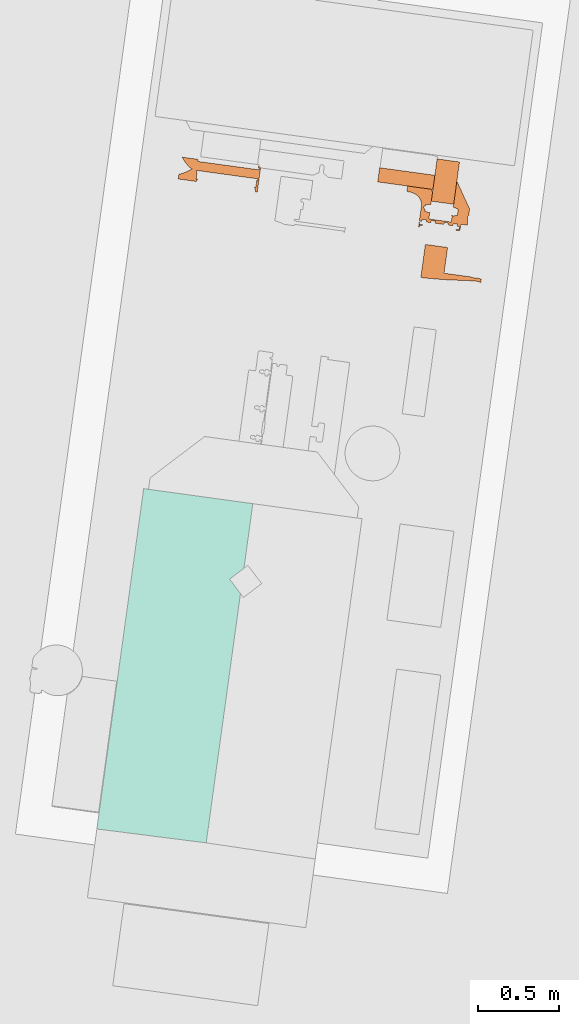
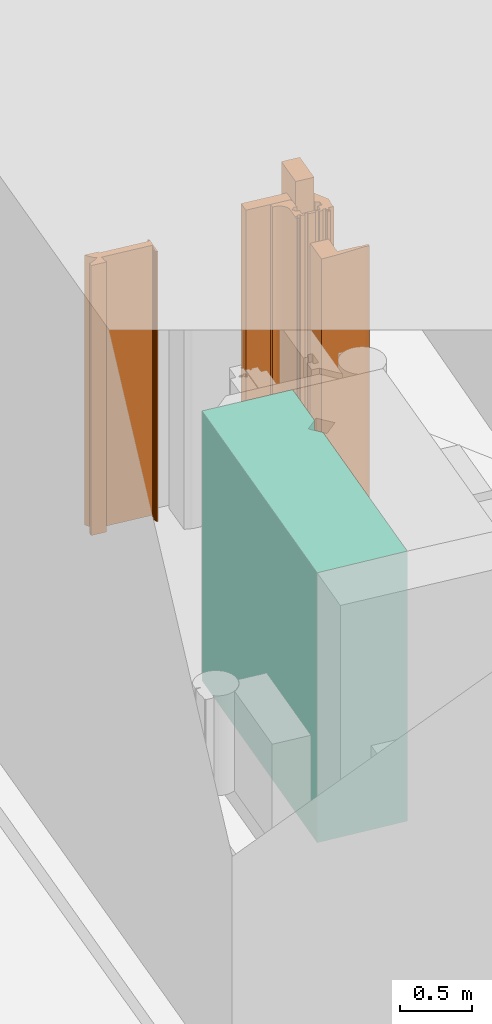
# Not in any storey, part 50 of 75: 5 proxies, plus 1 element that does not belong to this part.
"""IFC4 model written with IfcOpenShell, lengths in metres."""

import ifcopenshell
import ifcopenshell.guid

model = None  # the IFC model being written
_history = None  # IfcOwnerHistory: only IFC2X3 demands one
_inside = {}  # id of a spatial element -> (the spatial element, [elements in it])
_under = {}  # id of a project, library or spatial element -> (it, [spatial elements below it])
_declared = {}  # id of a project -> (the project, [libraries it declares])
_typed = {}  # id of a type object -> (the type object, [elements of that type])
_made_of = {}  # id of a material, layer set ... -> (it, [elements and type objects made of it])


def new_model(schema):
    """Start an empty IFC model of exactly this schema.

    Asked for "IFC4X3", IfcOpenShell would pick the latest addendum, in which some entities
    have other attributes; the version numbers below select the first issue.
    IFC2X3 requires an IfcOwnerHistory on every rooted entity: one is made here for all.
    """
    global model, _history
    if schema == "IFC4X3":
        model = ifcopenshell.file(schema_version=(4, 3, 0, 0))
    else:
        model = ifcopenshell.file(schema=schema)
    _inside.clear()
    _under.clear()
    _declared.clear()
    _typed.clear()
    _made_of.clear()
    _history = None
    if model.schema == "IFC2X3":
        org = make("IfcOrganization", Name="unknown")
        user = make(
            "IfcPersonAndOrganization",
            ThePerson=make("IfcPerson", FamilyName="unknown"),
            TheOrganization=org,
        )
        app = make(
            "IfcApplication",
            ApplicationDeveloper=org,
            Version="unknown",
            ApplicationFullName="unknown",
            ApplicationIdentifier="unknown",
        )
        _history = make(
            "IfcOwnerHistory",
            OwningUser=user,
            OwningApplication=app,
            ChangeAction="ADDED",
            CreationDate=0,
        )
    return model


def make(cls, **values):
    """One entity of the class cls with the attributes given. An attribute that is None is left unset."""
    return model.create_entity(
        cls, **{name: value for name, value in values.items() if value is not None}
    )


def rooted(cls, **values):
    """An entity with a GlobalId (a new one), such as an element, a storey or a relation."""
    return make(cls, GlobalId=ifcopenshell.guid.new(), OwnerHistory=_history, **values)


def si_unit(unit_type, name, prefix=None):
    """IfcSIUnit, for example si_unit("LENGTHUNIT", "METRE", prefix="MILLI")."""
    return make("IfcSIUnit", UnitType=unit_type, Prefix=prefix, Name=name)


def assignment(units):
    """IfcUnitAssignment: the units of a project."""
    return None if units is None else make("IfcUnitAssignment", Units=units)


def point(xyz):
    """IfcCartesianPoint."""
    return None if xyz is None else make("IfcCartesianPoint", Coordinates=xyz)


def direction(xyz):
    """IfcDirection."""
    return None if xyz is None else make("IfcDirection", DirectionRatios=xyz)


def frame(location, z_axis=None, x_axis=None):
    """IfcAxis2Placement3D, a coordinate frame: its origin and axes. An axis left out is left unset."""
    return make(
        "IfcAxis2Placement3D",
        Location=point(location),
        Axis=direction(z_axis),
        RefDirection=direction(x_axis),
    )


def origin_with_axes():
    """The frame at (0, 0, 0) with the z axis (0, 0, 1) and the x axis (1, 0, 0) written out."""
    return frame((0.0, 0.0, 0.0), z_axis=(0.0, 0.0, 1.0), x_axis=(1.0, 0.0, 0.0))


def place(relative_to, where):
    """IfcLocalPlacement: puts the frame where relative to a parent placement (None: the world)."""
    return make(
        "IfcLocalPlacement", PlacementRelTo=relative_to, RelativePlacement=where
    )


def context(
    kind, dimensions, precision=None, world=None, true_north=None, identifier=None
):
    """IfcGeometricRepresentationContext, for example the 3D "Model" context."""
    return make(
        "IfcGeometricRepresentationContext",
        ContextIdentifier=identifier,
        ContextType=kind,
        CoordinateSpaceDimension=dimensions,
        Precision=precision,
        WorldCoordinateSystem=world,
        TrueNorth=true_north,
    )


def subcontext(parent, identifier, kind, view, scale=None):
    """IfcGeometricRepresentationSubContext, for example "Body" below "Model"."""
    return make(
        "IfcGeometricRepresentationSubContext",
        ContextIdentifier=identifier,
        ContextType=kind,
        ParentContext=parent,
        TargetScale=scale,
        TargetView=view,
    )


def project(units=None, contexts=None):
    """IfcProject with its units and contexts."""
    return rooted(
        "IfcProject",
        Name="project",
        RepresentationContexts=contexts,
        UnitsInContext=assignment(units),
    )


def spatial(cls, under=None, at=None, **own):
    """A site, building, storey or space (cls), placed at a placement, below another one or the project."""
    s = rooted(cls, ObjectPlacement=at, **own)
    if under is not None:
        _under.setdefault(under.id(), (under, []))[1].append(s)
    return s


def point_list(points):
    """IfcCartesianPointList2D or 3D."""
    cls = (
        "IfcCartesianPointList2D" if len(points[0]) == 2 else "IfcCartesianPointList3D"
    )
    return make(cls, CoordList=points)


def triangles(points, corners, closed=None, point_numbers=None):
    """IfcTriangulatedFaceSet: each triangle names its three corners, points numbered from 1."""
    return make(
        "IfcTriangulatedFaceSet",
        Coordinates=point_list(points),
        Closed=closed,
        CoordIndex=corners,
        PnIndex=point_numbers,
    )


def shape(context_of_items, identifier, shape_type, items):
    """IfcShapeRepresentation: the items that make up one representation, for example the "Body"."""
    return make(
        "IfcShapeRepresentation",
        ContextOfItems=context_of_items,
        RepresentationIdentifier=identifier,
        RepresentationType=shape_type,
        Items=items,
    )


def made_of(thing, what):
    """Note that an element or type object is made of a material, layer set ...; save() writes the relation."""
    if what is not None:
        _made_of.setdefault(what.id(), (what, []))[1].append(thing)
    return thing


def element(
    cls,
    number,
    at=None,
    inside=None,
    cuts=None,
    type_object=None,
    material=None,
    context=None,
    identifier="Body",
    shape_type=None,
    held_by="IfcProductDefinitionShape",
    body=None,
    shapes=None,
    **own,
):
    """One element of the class cls, such as IfcWall. Its Tag is "e" and its number.

    at: its placement. inside: the storey or other place that contains it. cuts: it is an
    opening in that element (IfcRelVoidsElement). A single representation is given by context,
    identifier, shape_type and body (its items); several are given by shapes. held_by: the class
    of the entity that holds the representations. save() writes the other relations.
    """
    e = rooted(cls, Tag="e%d" % number, ObjectPlacement=at, **own)
    if body is not None:
        shapes = [shape(context, identifier, shape_type, body)]
    if shapes is not None:
        e.Representation = make(held_by, Representations=shapes)
    if inside is not None:
        _inside.setdefault(inside.id(), (inside, []))[1].append(e)
    if cuts is not None:
        rooted(
            "IfcRelVoidsElement", RelatingBuildingElement=cuts, RelatedOpeningElement=e
        )
    if type_object is not None:
        _typed.setdefault(type_object.id(), (type_object, []))[1].append(e)
    return made_of(e, material)


def aggregate(whole, parts):
    """IfcRelAggregates: a whole, such as a stair, and the parts it consists of."""
    return rooted("IfcRelAggregates", RelatingObject=whole, RelatedObjects=parts)


def save(model, path):
    """Write the relations noted so far, then the file.

    IfcRelAggregates (storeys below a building ...), IfcRelContainedInSpatialStructure (elements
    in a storey), IfcRelDefinesByType, IfcRelAssociatesMaterial and IfcRelDeclares: one each for
    every whole, place, type object, material and project.
    """
    for whole, parts in _under.values():
        aggregate(whole, parts)
    for where, things in _inside.values():
        rooted(
            "IfcRelContainedInSpatialStructure",
            RelatedElements=things,
            RelatingStructure=where,
        )
    for kind, things in _typed.values():
        rooted("IfcRelDefinesByType", RelatedObjects=things, RelatingType=kind)
    for what, things in _made_of.values():
        rooted("IfcRelAssociatesMaterial", RelatedObjects=things, RelatingMaterial=what)
    for by, libraries in _declared.values():
        rooted("IfcRelDeclares", RelatingContext=by, RelatedDefinitions=libraries)
    model.write(path)


model = new_model("IFC4")

# Units and contexts
model_context = context("Model", 3, precision=1e-05, world=origin_with_axes(), true_north=direction((0.0, 1.0)))
body_context = subcontext(model_context, "Body", "Model", "MODEL_VIEW")
ifc_project = project(units=[si_unit("AREAUNIT", "SQUARE_METRE"), si_unit("VOLUMEUNIT", "CUBIC_METRE"), si_unit("LENGTHUNIT", "METRE")], contexts=[model_context])

# Site
site_placement = place(None, origin_with_axes())
site = spatial("IfcSite", under=ifc_project, at=site_placement, Name="Parcela industrial Jinhong")

# Compressor, proxies
compressor_placement = place(site_placement, origin_with_axes())
compressor = element("IfcCompressor", 1, at=compressor_placement, inside=site, Name="Compresor de aire AC1001A · Carcasa principal · región CAD 1", ObjectType="Envolvente de equipo", PredefinedType="USERDEFINED", context=body_context, shape_type="Tessellation", body=[
    triangles([(49.52282, 73.229642, 3.95), (48.846977, 73.32256, 3.95), (49.467834, 72.829704, 3.95), (48.846977, 73.32256, 1.65), (49.52282, 73.229642, 1.65), (49.467834, 72.829704, 1.65), (48.557326, 71.215778, 3.95), (49.234108, 71.129696, 3.95), (49.234108, 71.129696, 1.65), (48.557326, 71.215778, 1.65), (49.378698, 72.762115, 3.95), (49.446287, 72.672978, 3.95), (49.446287, 72.672978, 1.65), (49.378698, 72.762115, 1.65)], [[1, 2, 3], [4, 5, 6], [2, 7, 8], [9, 10, 4], [8, 12, 11], [13, 9, 14], [3, 2, 11], [4, 6, 14], [2, 8, 11], [14, 9, 4], [4, 10, 7], [4, 7, 2], [10, 9, 8], [10, 8, 7], [9, 13, 12], [9, 12, 8], [11, 13, 14], [11, 12, 13], [14, 6, 3], [14, 3, 11], [6, 5, 1], [1, 3, 6], [5, 4, 2], [5, 2, 1]], closed=True),
])
proxy_1_placement = place(compressor_placement, origin_with_axes())
proxy_1 = element("IfcBuildingElementProxy", 2, at=proxy_1_placement, Name="Compresor de aire AC1001A · Cuerpo de equipo · región CAD 26", context=body_context, shape_type="Tessellation", body=[
    triangles([(50.663778, 75.364131, 4.2), (50.627793, 75.102393, 4.2), (50.76639, 75.083338, 4.2), (50.663778, 75.364131, 1.65), (50.76639, 75.083338, 1.65), (50.627793, 75.102393, 1.65), (50.802375, 75.345076, 4.2), (50.802375, 75.345076, 1.65)], [[1, 2, 3], [4, 5, 6], [3, 7, 1], [5, 4, 8], [5, 8, 7], [5, 7, 3], [8, 4, 1], [8, 1, 7], [2, 4, 6], [4, 2, 1], [6, 5, 3], [6, 3, 2]], closed=True),
])
proxy_2_placement = place(compressor_placement, origin_with_axes())
proxy_2 = element("IfcBuildingElementProxy", 3, at=proxy_2_placement, Name="Compresor de aire AC1001A · Cuerpo de equipo · región CAD 27", context=body_context, shape_type="Tessellation", body=[
    triangles([(50.878974, 74.632805, 3.85), (50.706794, 74.656477, 3.85), (50.878398, 74.628612, 3.85), (50.706794, 74.656477, 1.65), (50.878974, 74.632805, 1.65), (50.878398, 74.628612, 1.65), (50.728682, 74.815679, 3.85), (50.590977, 74.834612, 3.85), (50.590977, 74.834612, 1.65), (50.728682, 74.815679, 1.65), (50.562753, 74.629318, 3.85), (50.655321, 74.620553, 3.85), (50.655321, 74.620553, 1.65), (50.562753, 74.629318, 1.65), (50.753768, 74.614891, 3.85), (50.723075, 74.615578, 3.85), (50.723075, 74.615578, 1.65), (50.753768, 74.614891, 1.65), (50.86624, 74.609926, 3.85), (50.806859, 74.611933, 3.85), (50.806859, 74.611933, 1.65), (50.86624, 74.609926, 1.65), (50.937208, 74.620256, 3.85), (50.919373, 74.604337, 3.85), (50.934231, 74.598978, 3.85), (50.919373, 74.604337, 1.65), (50.937208, 74.620256, 1.65), (50.934231, 74.598978, 1.65), (50.910635, 74.627213, 3.85), (50.907162, 74.627112, 3.85), (50.907162, 74.627112, 1.65), (50.910635, 74.627213, 1.65), (50.905958, 74.627957, 3.85), (50.905958, 74.627957, 1.65), (50.901353, 74.607622, 3.85), (50.901353, 74.607622, 1.65)], [[1, 2, 3], [4, 5, 6], [2, 7, 8], [9, 10, 4], [8, 11, 12], [13, 14, 9], [16, 15, 12], [17, 13, 18], [20, 19, 15], [21, 18, 22], [23, 24, 25], [26, 27, 28], [23, 29, 30], [31, 32, 27], [30, 33, 3], [6, 34, 31], [12, 2, 8], [4, 13, 9], [15, 19, 12], [18, 13, 22], [24, 23, 35], [36, 27, 26], [30, 3, 23], [27, 6, 31], [3, 2, 12], [13, 4, 6], [23, 19, 35], [36, 22, 27], [23, 3, 12], [13, 6, 27], [19, 23, 12], [22, 13, 27], [4, 10, 7], [4, 7, 2], [10, 9, 8], [10, 8, 7], [9, 14, 11], [9, 11, 8], [14, 13, 12], [14, 12, 11], [16, 13, 17], [16, 12, 13], [15, 17, 18], [15, 16, 17], [20, 18, 21], [20, 15, 18], [19, 21, 22], [19, 20, 21], [35, 22, 36], [35, 19, 22], [36, 26, 24], [36, 24, 35], [25, 26, 28], [26, 25, 24], [28, 27, 23], [23, 25, 28], [29, 27, 32], [29, 23, 27], [32, 31, 30], [32, 30, 29], [33, 31, 34], [33, 30, 31], [34, 6, 3], [34, 3, 33], [6, 5, 1], [1, 3, 6], [5, 4, 2], [5, 2, 1]], closed=True),
])
proxy_3_placement = place(compressor_placement, origin_with_axes())
proxy_3 = element("IfcBuildingElementProxy", 4, at=proxy_3_placement, Name="Compresor de aire AC1001A · Cuerpo de equipo · región CAD 28", context=body_context, shape_type="Tessellation", body=[
    triangles([(50.703618, 74.958625, 4.0), (50.654835, 74.967957, 4.0), (50.654481, 74.965381, 4.0), (50.654835, 74.967957, 1.65), (50.703618, 74.958625, 1.65), (50.654481, 74.965381, 1.65), (50.70887, 74.971126, 4.0), (50.703972, 74.961201, 4.0), (50.70744, 74.960724, 4.0), (50.70887, 74.971126, 1.65), (50.70744, 74.960724, 1.65), (50.703972, 74.961201, 1.65), (50.732943, 74.967817, 4.0), (50.731513, 74.957415, 4.0), (50.734089, 74.95706, 4.0), (50.732943, 74.967817, 1.65), (50.734089, 74.95706, 1.65), (50.731513, 74.957415, 1.65), (50.760384, 74.950821, 4.0), (50.733735, 74.954485, 4.0), (50.733735, 74.954485, 1.65), (50.760384, 74.950821, 1.65), (50.763536, 74.95392, 4.0), (50.760738, 74.953397, 4.0), (50.763413, 74.953029, 4.0), (50.760738, 74.953397, 1.65), (50.763536, 74.95392, 1.65), (50.763413, 74.953029, 1.65), (50.789294, 74.950379, 4.0), (50.787609, 74.950611, 4.0), (50.787487, 74.949719, 4.0), (50.787609, 74.950611, 1.65), (50.789294, 74.950379, 1.65), (50.787487, 74.949719, 1.65), (50.802587, 74.945019, 4.0), (50.790063, 74.949365, 4.0), (50.789708, 74.946789, 4.0), (50.790063, 74.949365, 1.65), (50.802587, 74.945019, 1.65), (50.789708, 74.946789, 1.65), (50.799986, 74.926097, 4.0), (50.780172, 74.928821, 4.0), (50.779341, 74.922777, 4.0), (50.780172, 74.928821, 1.65), (50.799986, 74.926097, 1.65), (50.779341, 74.922777, 1.65), (50.852463, 75.007508, 4.0), (50.810769, 74.959741, 4.0), (50.850396, 74.954293, 4.0), (50.852463, 75.007508, 1.65), (50.850396, 74.954293, 1.65), (50.810769, 74.959741, 1.65), (50.865017, 75.054031, 4.0), (50.854624, 75.010743, 4.0), (50.859337, 75.01272, 4.0), (50.865017, 75.054031, 1.65), (50.859337, 75.01272, 1.65), (50.854624, 75.010743, 1.65), (50.786044, 75.226293, 4.0), (50.763666, 75.063524, 4.0), (50.763666, 75.063524, 1.65), (50.786044, 75.226293, 1.65), (50.76109, 75.063878, 4.0), (50.760981, 75.063086, 4.0), (50.760981, 75.063086, 1.65), (50.76109, 75.063878, 1.65), (50.79168, 75.031611, 4.0), (50.793734, 75.052425, 4.0), (50.791841, 75.038655, 4.0), (50.793734, 75.052425, 1.65), (50.79168, 75.031611, 1.65), (50.791841, 75.038655, 1.65), (50.788517, 75.014482, 4.0), (50.790424, 75.028352, 4.0), (50.790424, 75.028352, 1.65), (50.788517, 75.014482, 1.65), (50.766995, 75.011385, 4.0), (50.754116, 75.013155, 4.0), (50.753639, 75.009688, 4.0), (50.754116, 75.013155, 1.65), (50.766995, 75.011385, 1.65), (50.753639, 75.009688, 1.65), (50.752905, 74.98526, 4.0), (50.751122, 74.985506, 4.0), (50.75266, 74.983477, 4.0), (50.751122, 74.985506, 1.65), (50.752905, 74.98526, 1.65), (50.75266, 74.983477, 1.65), (50.615993, 75.004084, 4.0), (50.614309, 75.004315, 4.0), (50.614064, 75.002532, 4.0), (50.614309, 75.004315, 1.65), (50.615993, 75.004084, 1.65), (50.614064, 75.002532, 1.65), (50.620671, 75.031502, 4.0), (50.617619, 75.028389, 4.0), (50.620195, 75.028035, 4.0), (50.620671, 75.031502, 1.65), (50.620195, 75.028035, 1.65), (50.617619, 75.028389, 1.65), (50.588443, 75.052588, 4.0), (50.587551, 75.052711, 4.0), (50.587013, 75.042186, 4.0), (50.587551, 75.052711, 1.65), (50.588443, 75.052588, 1.65), (50.587013, 75.042186, 1.65), (50.58533, 75.055641, 4.0), (50.583646, 75.055872, 4.0), (50.583646, 75.055872, 1.65), (50.58533, 75.055641, 1.65), (50.582217, 75.058693, 4.0), (50.579763, 75.059939, 4.0), (50.579763, 75.059939, 1.65), (50.582217, 75.058693, 1.65), (50.585893, 75.072219, 4.0), (50.580156, 75.068667, 4.0), (50.582841, 75.069105, 4.0), (50.580156, 75.068667, 1.65), (50.585893, 75.072219, 1.65), (50.582841, 75.069105, 1.65), (50.59223, 75.080129, 4.0), (50.591045, 75.07151, 4.0), (50.591045, 75.07151, 1.65), (50.59223, 75.080129, 1.65), (50.626753, 75.082348, 4.0), (50.613766, 75.083326, 4.0), (50.626644, 75.081555, 4.0), (50.613766, 75.083326, 1.65), (50.626753, 75.082348, 1.65), (50.626644, 75.081555, 1.65), (50.62565, 75.176374, 4.0), (50.625069, 75.082579, 4.0), (50.635734, 75.160149, 4.0), (50.62565, 75.176374, 1.65), (50.635734, 75.160149, 1.65), (50.625069, 75.082579, 1.65), (50.481011, 75.19626, 4.0), (50.476284, 75.161883, 4.0), (50.476284, 75.161883, 1.65), (50.481011, 75.19626, 1.65), (50.555547, 74.953546, 4.0), (50.548856, 74.943059, 4.0), (50.554007, 74.942351, 4.0), (50.555547, 74.953546, 1.65), (50.554007, 74.942351, 1.65), (50.548856, 74.943059, 1.65), (50.572724, 74.957342, 4.0), (50.571893, 74.951299, 4.0), (50.571893, 74.951299, 1.65), (50.572724, 74.957342, 1.65), (50.568744, 74.979793, 4.0), (50.555512, 74.978988, 4.0), (50.56839, 74.977217, 4.0), (50.555512, 74.978988, 1.65), (50.568744, 74.979793, 1.65), (50.56839, 74.977217, 1.65), (50.571443, 74.98033, 4.0), (50.57132, 74.979439, 4.0), (50.57132, 74.979439, 1.65), (50.571443, 74.98033, 1.65), (50.5973, 74.976775, 4.0), (50.595615, 74.977007, 4.0), (50.595493, 74.976115, 4.0), (50.595615, 74.977007, 1.65), (50.5973, 74.976775, 1.65), (50.595493, 74.976115, 1.65), (50.624364, 74.969522, 4.0), (50.598069, 74.975761, 4.0), (50.597715, 74.973185, 4.0), (50.598069, 74.975761, 1.65), (50.624364, 74.969522, 1.65), (50.597715, 74.973185, 1.65), (50.627416, 74.972635, 4.0), (50.624718, 74.972097, 4.0), (50.627294, 74.971743, 4.0), (50.624718, 74.972097, 1.65), (50.627416, 74.972635, 1.65), (50.627294, 74.971743, 1.65), (50.652896, 74.978822, 4.0), (50.652774, 74.97793, 4.0), (50.654335, 74.976807, 4.0), (50.652896, 74.978822, 1.65), (50.654335, 74.976807, 1.65), (50.652774, 74.97793, 1.65), (50.653273, 74.96908, 4.0), (50.651589, 74.969311, 4.0), (50.651466, 74.96842, 4.0), (50.651589, 74.969311, 1.65), (50.653273, 74.96908, 1.65), (50.651466, 74.96842, 1.65), (50.762644, 74.954043, 4.0), (50.762644, 74.954043, 1.65), (50.805198, 74.919223, 4.0), (50.805198, 74.919223, 1.65), (50.756215, 75.009334, 4.0), (50.756215, 75.009334, 1.65), (50.606901, 75.033395, 4.0), (50.606901, 75.033395, 1.65), (50.50717, 75.156728, 4.0), (50.50717, 75.156728, 1.65), (50.55291, 74.960066, 4.0), (50.55291, 74.960066, 1.65), (50.626624, 74.972744, 4.0), (50.626624, 74.972744, 1.65), (50.763707, 74.96177, 4.0), (50.763707, 74.96177, 1.65), (50.790356, 74.958106, 4.0), (50.790356, 74.958106, 1.65), (50.77386, 75.061315, 4.0), (50.77386, 75.061315, 1.65), (50.5237, 75.149207, 4.0), (50.5237, 75.149207, 1.65), (50.569759, 74.980562, 4.0), (50.569759, 74.980562, 1.65), (50.598362, 74.984503, 4.0), (50.598362, 74.984503, 1.65), (50.578433, 75.062746, 4.0), (50.578433, 75.062746, 1.65), (50.538092, 75.139355, 4.0), (50.538092, 75.139355, 1.65), (50.566739, 75.073136, 4.0), (50.566739, 75.073136, 1.65), (50.570821, 74.988289, 4.0), (50.570821, 74.988289, 1.65), (50.764843, 74.963431, 4.0), (50.764843, 74.963431, 1.65), (50.612647, 74.992229, 4.0), (50.612647, 74.992229, 1.65), (50.549663, 75.128074, 4.0), (50.549663, 75.128074, 1.65), (50.57275, 74.989841, 4.0), (50.57275, 74.989841, 1.65), (50.596923, 74.986518, 4.0), (50.596923, 74.986518, 1.65), (50.788025, 74.960244, 4.0), (50.788025, 74.960244, 1.65), (50.751244, 74.973174, 4.0), (50.751244, 74.973174, 1.65), (50.559196, 75.114448, 4.0), (50.559196, 75.114448, 1.65), (50.627686, 74.980471, 4.0), (50.627686, 74.980471, 1.65), (50.567741, 75.087029, 4.0), (50.567741, 75.087029, 1.65), (50.629615, 74.982023, 4.0), (50.629615, 74.982023, 1.65), (50.564483, 75.101508, 4.0), (50.564483, 75.101508, 1.65)], [[1, 2, 3], [4, 5, 6], [7, 8, 9], [10, 11, 12], [13, 14, 15], [16, 17, 18], [20, 19, 15], [21, 17, 22], [23, 24, 25], [26, 27, 28], [29, 30, 31], [32, 33, 34], [35, 36, 37], [38, 39, 40], [41, 42, 43], [44, 45, 46], [47, 48, 49], [50, 51, 52], [53, 54, 55], [56, 57, 58], [60, 53, 59], [62, 56, 61], [60, 63, 64], [65, 66, 61], [67, 68, 69], [70, 71, 72], [74, 73, 67], [75, 71, 76], [77, 78, 79], [80, 81, 82], [83, 84, 85], [86, 87, 88], [89, 90, 91], [92, 93, 94], [95, 96, 97], [98, 99, 100], [101, 102, 103], [104, 105, 106], [102, 107, 108], [109, 110, 104], [108, 111, 112], [113, 114, 109], [115, 116, 117], [118, 119, 120], [115, 122, 121], [123, 119, 124], [125, 126, 127], [128, 129, 130], [131, 132, 133], [134, 135, 136], [131, 137, 138], [139, 140, 134], [141, 142, 143], [144, 145, 146], [148, 147, 141], [149, 144, 150], [151, 152, 153], [154, 155, 156], [158, 157, 151], [159, 155, 160], [161, 162, 163], [164, 165, 166], [167, 168, 169], [170, 171, 172], [173, 174, 175], [176, 177, 178], [179, 180, 181], [182, 183, 184], [185, 186, 187], [188, 189, 190], [8, 2, 1], [5, 4, 12], [15, 19, 13], [17, 16, 22], [23, 191, 24], [26, 192, 27], [29, 31, 36], [34, 33, 38], [41, 43, 193], [46, 45, 194], [54, 48, 47], [52, 58, 50], [53, 60, 64], [65, 61, 56], [77, 79, 195], [82, 81, 196], [96, 95, 197], [100, 198, 98], [103, 102, 108], [106, 109, 104], [121, 116, 115], [119, 118, 124], [132, 126, 125], [129, 128, 136], [131, 138, 199], [200, 139, 134], [141, 147, 201], [202, 150, 144], [157, 152, 151], [155, 154, 160], [161, 163, 168], [166, 165, 170], [174, 168, 167], [171, 170, 176], [173, 203, 174], [176, 204, 177], [2, 185, 187], [190, 189, 4], [8, 7, 2], [12, 4, 10], [19, 24, 13], [22, 16, 26], [24, 191, 205], [206, 192, 26], [207, 29, 36], [38, 33, 208], [35, 41, 193], [194, 45, 39], [48, 54, 53], [58, 52, 56], [53, 64, 209], [210, 65, 56], [77, 195, 73], [81, 76, 196], [90, 96, 197], [198, 100, 92], [108, 112, 103], [109, 106, 113], [126, 132, 131], [136, 128, 134], [131, 199, 211], [212, 200, 134], [201, 142, 141], [202, 144, 146], [157, 213, 152], [154, 214, 160], [215, 161, 168], [170, 165, 216], [174, 203, 168], [176, 170, 204], [185, 2, 181], [4, 189, 183], [24, 205, 13], [26, 16, 206], [36, 35, 207], [208, 39, 38], [35, 193, 48], [52, 194, 39], [68, 53, 209], [70, 210, 56], [83, 73, 195], [87, 196, 76], [197, 91, 90], [94, 198, 92], [112, 217, 103], [113, 106, 218], [121, 126, 131], [134, 128, 124], [131, 211, 219], [220, 212, 134], [201, 221, 142], [202, 146, 222], [213, 223, 152], [214, 154, 224], [203, 215, 168], [170, 216, 204], [7, 181, 2], [4, 183, 10], [205, 225, 13], [206, 16, 226], [48, 207, 35], [39, 208, 52], [48, 53, 68], [70, 56, 52], [73, 83, 85], [87, 76, 88], [197, 227, 91], [94, 228, 198], [116, 121, 131], [134, 124, 118], [131, 219, 229], [230, 220, 134], [221, 201, 152], [154, 202, 222], [223, 231, 152], [224, 154, 232], [215, 203, 233], [216, 234, 204], [181, 7, 179], [183, 182, 10], [207, 48, 235], [208, 236, 52], [67, 48, 68], [70, 52, 71], [73, 85, 237], [238, 88, 76], [227, 197, 103], [106, 198, 228], [131, 229, 239], [240, 230, 134], [152, 231, 221], [232, 154, 222], [203, 241, 233], [234, 242, 204], [235, 48, 225], [226, 52, 236], [73, 48, 67], [52, 76, 71], [116, 131, 239], [240, 134, 118], [231, 243, 221], [222, 244, 232], [241, 245, 233], [242, 234, 246], [48, 13, 225], [226, 16, 52], [237, 48, 73], [52, 238, 76], [116, 239, 247], [248, 240, 118], [243, 231, 233], [234, 232, 244], [13, 48, 7], [16, 10, 52], [227, 48, 237], [238, 52, 228], [217, 116, 247], [248, 118, 218], [243, 233, 247], [244, 248, 234], [48, 179, 7], [10, 182, 52], [217, 247, 233], [234, 248, 218], [179, 48, 245], [182, 246, 52], [103, 217, 233], [234, 218, 106], [245, 48, 233], [234, 52, 246], [103, 233, 227], [228, 234, 106], [48, 227, 233], [234, 228, 52], [6, 5, 1], [1, 3, 6], [5, 12, 8], [5, 8, 1], [12, 11, 9], [12, 9, 8], [11, 10, 7], [7, 9, 11], [13, 10, 16], [13, 7, 10], [14, 16, 18], [16, 14, 13], [18, 17, 15], [18, 15, 14], [17, 21, 20], [17, 20, 15], [19, 21, 22], [19, 20, 21], [22, 26, 24], [22, 24, 19], [25, 26, 28], [26, 25, 24], [28, 27, 23], [23, 25, 28], [191, 27, 192], [191, 23, 27], [192, 206, 205], [192, 205, 191], [206, 226, 225], [206, 225, 205], [235, 226, 236], [235, 225, 226], [236, 208, 207], [236, 207, 235], [208, 33, 29], [208, 29, 207], [33, 32, 30], [33, 30, 29], [31, 32, 34], [32, 31, 30], [36, 34, 38], [36, 31, 34], [37, 38, 40], [38, 37, 36], [40, 39, 35], [35, 37, 40], [39, 45, 41], [39, 41, 35], [45, 44, 42], [45, 42, 41], [43, 44, 46], [44, 43, 42], [193, 46, 194], [193, 43, 46], [194, 52, 48], [194, 48, 193], [52, 51, 49], [52, 49, 48], [51, 50, 47], [47, 49, 51], [50, 58, 54], [50, 54, 47], [58, 57, 55], [58, 55, 54], [57, 56, 53], [53, 55, 57], [56, 62, 59], [56, 59, 53], [62, 61, 60], [62, 60, 59], [63, 61, 66], [63, 60, 61], [66, 65, 64], [66, 64, 63], [209, 65, 210], [209, 64, 65], [210, 70, 68], [210, 68, 209], [69, 70, 72], [70, 69, 68], [72, 71, 67], [67, 69, 72], [71, 75, 74], [71, 74, 67], [73, 75, 76], [73, 74, 75], [77, 76, 81], [77, 73, 76], [81, 80, 78], [81, 78, 77], [79, 80, 82], [80, 79, 78], [195, 82, 196], [195, 79, 82], [196, 87, 83], [196, 83, 195], [87, 86, 84], [87, 84, 83], [85, 86, 88], [86, 85, 84], [88, 238, 237], [88, 237, 85], [238, 228, 227], [238, 227, 237], [228, 94, 91], [228, 91, 227], [94, 93, 89], [89, 91, 94], [93, 92, 90], [93, 90, 89], [92, 100, 96], [92, 96, 90], [100, 99, 97], [100, 97, 96], [99, 98, 95], [95, 97, 99], [197, 98, 198], [197, 95, 98], [198, 106, 103], [198, 103, 197], [106, 105, 101], [101, 103, 106], [105, 104, 102], [105, 102, 101], [104, 110, 107], [104, 107, 102], [110, 109, 108], [110, 108, 107], [109, 114, 111], [109, 111, 108], [114, 113, 112], [114, 112, 111], [113, 218, 217], [113, 217, 112], [218, 118, 116], [218, 116, 217], [117, 118, 120], [118, 117, 116], [120, 119, 115], [115, 117, 120], [122, 119, 123], [122, 115, 119], [121, 123, 124], [121, 122, 123], [126, 124, 128], [126, 121, 124], [127, 128, 130], [128, 127, 126], [130, 129, 125], [125, 127, 130], [132, 129, 136], [132, 125, 129], [136, 135, 133], [136, 133, 132], [135, 134, 131], [131, 133, 135], [137, 134, 140], [137, 131, 134], [140, 139, 138], [140, 138, 137], [199, 139, 200], [199, 138, 139], [211, 200, 212], [211, 199, 200], [219, 212, 220], [219, 211, 212], [229, 220, 230], [229, 219, 220], [230, 240, 239], [230, 239, 229], [240, 248, 247], [240, 247, 239], [248, 244, 243], [248, 243, 247], [244, 222, 221], [244, 221, 243], [222, 146, 142], [222, 142, 221], [146, 145, 143], [146, 143, 142], [145, 144, 141], [141, 143, 145], [148, 144, 149], [148, 141, 144], [147, 149, 150], [147, 148, 149], [201, 150, 202], [201, 147, 150], [202, 154, 152], [202, 152, 201], [153, 154, 156], [154, 153, 152], [156, 155, 151], [151, 153, 156], [158, 155, 159], [158, 151, 155], [157, 159, 160], [157, 158, 159], [213, 160, 214], [213, 157, 160], [214, 224, 223], [214, 223, 213], [231, 224, 232], [231, 223, 224], [233, 232, 234], [233, 231, 232], [234, 216, 215], [234, 215, 233], [216, 165, 161], [216, 161, 215], [165, 164, 162], [165, 162, 161], [163, 164, 166], [164, 163, 162], [168, 166, 170], [168, 163, 166], [169, 170, 172], [170, 169, 168], [172, 171, 167], [167, 169, 172], [171, 176, 174], [171, 174, 167], [175, 176, 178], [176, 175, 174], [178, 177, 173], [173, 175, 178], [203, 177, 204], [203, 173, 177], [204, 242, 241], [204, 241, 203], [245, 242, 246], [245, 241, 242], [246, 182, 179], [246, 179, 245], [180, 182, 184], [182, 180, 179], [184, 183, 181], [184, 181, 180], [183, 189, 185], [183, 185, 181], [189, 188, 186], [189, 186, 185], [187, 188, 190], [188, 187, 186], [190, 4, 2], [190, 2, 187], [3, 4, 6], [4, 3, 2]], closed=True),
])
proxy_4_placement = place(compressor_placement, origin_with_axes())
proxy_4 = element("IfcBuildingElementProxy", 5, at=proxy_4_placement, Name="Compresor de aire AC1001A · Cuerpo de equipo · región CAD 29", context=body_context, shape_type="Tessellation", body=[
    triangles([(49.550168, 75.157584, 3.95), (49.539144, 75.166973, 3.95), (49.540093, 75.158969, 3.95), (49.539144, 75.166973, 1.65), (49.550168, 75.157584, 1.65), (49.540093, 75.158969, 1.65), (49.570885, 75.308266, 3.95), (49.559313, 75.319548, 3.95), (49.557774, 75.308353, 3.95), (49.559313, 75.319548, 1.65), (49.570885, 75.308266, 1.65), (49.557774, 75.308353, 1.65), (49.188581, 75.360828, 3.95), (49.184089, 75.359729, 3.95), (49.188349, 75.359143, 3.95), (49.184089, 75.359729, 1.65), (49.188581, 75.360828, 1.65), (49.188349, 75.359143, 1.65), (49.085253, 75.375034, 3.95), (49.100842, 75.347453, 3.95), (49.100842, 75.347453, 1.65), (49.085253, 75.375034, 1.65), (49.13496, 75.308544, 3.95), (49.120945, 75.321877, 3.95), (49.120945, 75.321877, 1.65), (49.13496, 75.308544, 1.65), (49.148376, 75.304075, 3.95), (49.143102, 75.303891, 3.95), (49.143102, 75.303891, 1.65), (49.148376, 75.304075, 1.65), (49.097429, 75.278576, 3.95), (49.079227, 75.273205, 3.95), (49.078751, 75.269738, 3.95), (49.079227, 75.273205, 1.65), (49.097429, 75.278576, 1.65), (49.078751, 75.269738, 1.65), (49.071816, 75.270691, 3.95), (49.064749, 75.269947, 3.95), (49.064749, 75.269947, 1.65), (49.071816, 75.270691, 1.65), (49.174239, 75.224208, 3.95), (49.060608, 75.23983, 3.95), (49.060608, 75.23983, 1.65), (49.174239, 75.224208, 1.65), (49.180624, 75.239077, 3.95), (49.175656, 75.234511, 3.95), (49.179916, 75.233925, 3.95), (49.175656, 75.234511, 1.65), (49.180624, 75.239077, 1.65), (49.179916, 75.233925, 1.65), (49.177453, 75.279889, 3.95), (49.173193, 75.280475, 3.95), (49.172005, 75.240262, 3.95), (49.173193, 75.280475, 1.65), (49.177453, 75.279889, 1.65), (49.172005, 75.240262, 1.65), (49.552029, 75.22839, 3.95), (49.546878, 75.229098, 3.95), (49.54143, 75.189471, 3.95), (49.546878, 75.229098, 1.65), (49.552029, 75.22839, 1.65), (49.54143, 75.189471, 1.65), (49.532811, 75.190656, 3.95), (49.532103, 75.185505, 3.95), (49.532103, 75.185505, 1.65), (49.532811, 75.190656, 1.65), (49.535042, 75.171539, 3.95), (49.536363, 75.184919, 3.95), (49.536363, 75.184919, 1.65), (49.535042, 75.171539, 1.65), (49.562926, 75.307645, 3.95), (49.562926, 75.307645, 1.65), (49.115181, 75.285826, 3.95), (49.115181, 75.285826, 1.65), (49.561387, 75.29645, 3.95), (49.561387, 75.29645, 1.65), (49.18255, 75.348534, 3.95), (49.18255, 75.348534, 1.65), (49.132053, 75.294004, 3.95), (49.132053, 75.294004, 1.65), (49.553691, 75.240476, 3.95), (49.553691, 75.240476, 1.65), (49.174855, 75.292561, 3.95), (49.174855, 75.292561, 1.65)], [[1, 2, 3], [4, 5, 6], [7, 8, 9], [10, 11, 12], [13, 14, 15], [16, 17, 18], [13, 19, 20], [21, 22, 17], [24, 23, 20], [25, 21, 26], [28, 27, 23], [29, 26, 30], [31, 32, 33], [34, 35, 36], [33, 37, 38], [39, 40, 36], [42, 41, 38], [43, 39, 44], [45, 46, 47], [48, 49, 50], [51, 52, 53], [54, 55, 56], [57, 58, 59], [60, 61, 62], [59, 63, 64], [65, 66, 62], [67, 2, 68], [4, 70, 69], [7, 2, 1], [5, 4, 11], [7, 9, 71], [12, 11, 72], [14, 13, 20], [16, 21, 17], [23, 27, 20], [26, 21, 30], [33, 73, 31], [74, 36, 35], [41, 33, 38], [39, 36, 44], [46, 45, 53], [48, 56, 49], [59, 64, 68], [69, 65, 62], [7, 71, 75], [76, 72, 11], [77, 14, 20], [21, 16, 78], [41, 73, 33], [44, 36, 74], [41, 46, 53], [56, 48, 44], [59, 68, 2], [4, 69, 62], [75, 77, 20], [21, 78, 76], [79, 73, 41], [44, 74, 80], [59, 2, 57], [62, 61, 4], [27, 75, 20], [30, 21, 76], [41, 27, 79], [44, 80, 30], [57, 2, 7], [11, 4, 61], [27, 41, 53], [56, 44, 30], [81, 57, 7], [11, 61, 82], [53, 52, 27], [56, 30, 54], [75, 81, 7], [76, 11, 82], [52, 83, 27], [54, 30, 84], [81, 75, 83], [82, 84, 76], [75, 27, 83], [84, 30, 76], [5, 11, 7], [5, 7, 1], [11, 10, 8], [11, 8, 7], [9, 10, 12], [10, 9, 8], [71, 12, 72], [71, 9, 12], [72, 76, 75], [72, 75, 71], [77, 76, 78], [77, 75, 76], [78, 16, 14], [78, 14, 77], [15, 16, 18], [16, 15, 14], [18, 17, 13], [13, 15, 18], [19, 17, 22], [19, 13, 17], [22, 21, 20], [22, 20, 19], [21, 25, 24], [21, 24, 20], [23, 25, 26], [23, 24, 25], [28, 26, 29], [28, 23, 26], [27, 29, 30], [27, 28, 29], [79, 30, 80], [79, 27, 30], [80, 74, 73], [80, 73, 79], [74, 35, 31], [74, 31, 73], [35, 34, 32], [35, 32, 31], [33, 34, 36], [34, 33, 32], [37, 36, 40], [37, 33, 36], [40, 39, 38], [40, 38, 37], [39, 43, 42], [39, 42, 38], [41, 43, 44], [41, 42, 43], [44, 48, 46], [44, 46, 41], [47, 48, 50], [48, 47, 46], [50, 49, 45], [45, 47, 50], [53, 49, 56], [53, 45, 49], [56, 55, 51], [51, 53, 56], [55, 54, 52], [55, 52, 51], [54, 84, 83], [54, 83, 52], [84, 82, 81], [84, 81, 83], [82, 61, 57], [82, 57, 81], [61, 60, 58], [61, 58, 57], [59, 60, 62], [60, 59, 58], [63, 62, 66], [63, 59, 62], [66, 65, 64], [66, 64, 63], [68, 65, 69], [68, 64, 65], [67, 69, 70], [67, 68, 69], [70, 4, 2], [70, 2, 67], [3, 4, 6], [4, 3, 2], [6, 5, 1], [1, 3, 6]], closed=True),
])
proxy_5_placement = place(compressor_placement, origin_with_axes())
proxy_5 = element("IfcBuildingElementProxy", 6, at=proxy_5_placement, Name="Compresor de aire AC1001A · Cuerpo de equipo · región CAD 35", context=body_context, shape_type="Tessellation", body=[
    triangles([(50.649818, 75.262586, 4.0), (50.307934, 75.30959, 4.0), (50.637736, 75.174712, 4.0), (50.307934, 75.30959, 1.65), (50.649818, 75.262586, 1.65), (50.637736, 75.174712, 1.65), (50.295852, 75.221716, 4.0), (50.295852, 75.221716, 1.65)], [[1, 2, 3], [4, 5, 6], [3, 2, 7], [8, 4, 6], [4, 8, 7], [4, 7, 2], [8, 6, 3], [8, 3, 7], [6, 5, 1], [1, 3, 6], [5, 4, 2], [5, 2, 1]], closed=True),
])
aggregate(compressor, [proxy_1, proxy_2, proxy_3, proxy_4, proxy_5])

save(model, "model.ifc")
